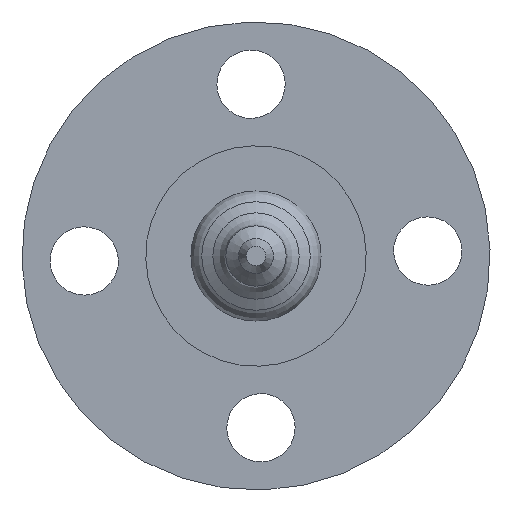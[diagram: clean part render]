
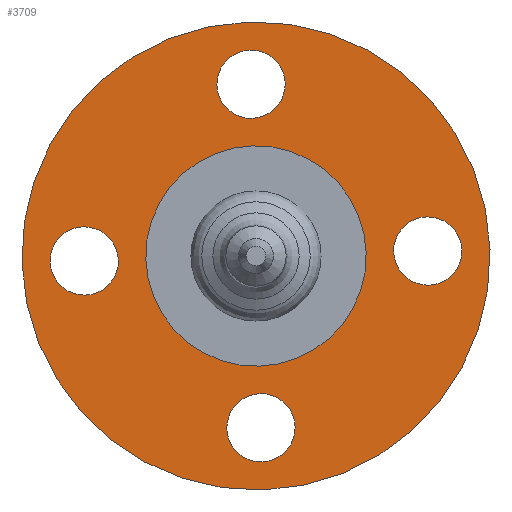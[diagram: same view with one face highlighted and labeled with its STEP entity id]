
A CAD part, left-side view. The second image highlights one B-rep face of the part: STEP entity #3709.
In plain terms, the highlighted planar face has unit normal (-1, 0, 0).
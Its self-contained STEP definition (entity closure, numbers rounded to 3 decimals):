
#595=ORIENTED_EDGE('',*,*,#1331,.F.);
#596=ORIENTED_EDGE('',*,*,#1330,.F.);
#597=ORIENTED_EDGE('',*,*,#1329,.F.);
#598=ORIENTED_EDGE('',*,*,#1332,.F.);
#599=ORIENTED_EDGE('',*,*,#1333,.F.);
#600=ORIENTED_EDGE('',*,*,#1334,.T.);
#1329=EDGE_CURVE('',#1699,#1699,#1962,.T.);
#1330=EDGE_CURVE('',#1700,#1700,#1963,.T.);
#1331=EDGE_CURVE('',#1701,#1701,#1964,.T.);
#1332=EDGE_CURVE('',#1702,#1702,#1965,.T.);
#1333=EDGE_CURVE('',#1703,#1703,#1966,.T.);
#1334=EDGE_CURVE('',#1704,#1704,#1967,.T.);
#1699=VERTEX_POINT('',#4532);
#1700=VERTEX_POINT('',#4535);
#1701=VERTEX_POINT('',#4538);
#1702=VERTEX_POINT('',#4541);
#1703=VERTEX_POINT('',#4543);
#1704=VERTEX_POINT('',#4545);
#1962=CIRCLE('',#3886,7.874);
#1963=CIRCLE('',#3888,7.874);
#1964=CIRCLE('',#3890,7.874);
#1965=CIRCLE('',#3892,25.4);
#1966=CIRCLE('',#3893,7.874);
#1967=CIRCLE('',#3894,53.975);
#2035=EDGE_LOOP('',(#595));
#2036=EDGE_LOOP('',(#596));
#2037=EDGE_LOOP('',(#597));
#2038=EDGE_LOOP('',(#598));
#2039=EDGE_LOOP('',(#599));
#2040=EDGE_LOOP('',(#600));
#2270=FACE_BOUND('',#2035,.T.);
#2271=FACE_BOUND('',#2036,.T.);
#2272=FACE_BOUND('',#2037,.T.);
#2273=FACE_BOUND('',#2038,.T.);
#2274=FACE_BOUND('',#2039,.T.);
#2275=FACE_BOUND('',#2040,.T.);
#2494=PLANE('',#3891);
#3709=ADVANCED_FACE('',(#2270,#2271,#2272,#2273,#2274,#2275),#2494,.T.);
#3886=AXIS2_PLACEMENT_3D('',#4531,#4066,#4067);
#3888=AXIS2_PLACEMENT_3D('',#4534,#4070,#4071);
#3890=AXIS2_PLACEMENT_3D('',#4537,#4074,#4075);
#3891=AXIS2_PLACEMENT_3D('',#4539,#4076,#4077);
#3892=AXIS2_PLACEMENT_3D('',#4540,#4078,#4079);
#3893=AXIS2_PLACEMENT_3D('',#4542,#4080,#4081);
#3894=AXIS2_PLACEMENT_3D('',#4544,#4082,#4083);
#4066=DIRECTION('',(-1.,0.,0.));
#4067=DIRECTION('',(0.,-0.029,-1.));
#4070=DIRECTION('',(-1.,0.,0.));
#4071=DIRECTION('',(0.,-0.029,-1.));
#4074=DIRECTION('',(-1.,0.,0.));
#4075=DIRECTION('',(0.,-0.029,-1.));
#4076=DIRECTION('',(-1.,0.,0.));
#4077=DIRECTION('',(0.,0.029,1.));
#4078=DIRECTION('',(-1.,0.,0.));
#4079=DIRECTION('',(0.,-0.029,-1.));
#4080=DIRECTION('',(-1.,0.,0.));
#4081=DIRECTION('',(0.,-0.029,-1.));
#4082=DIRECTION('',(-1.,0.,0.));
#4083=DIRECTION('',(0.,-0.029,-1.));
#4531=CARTESIAN_POINT('',(131.588,39.607,-1.151));
#4532=CARTESIAN_POINT('',(131.588,39.379,-9.022));
#4534=CARTESIAN_POINT('',(131.588,-1.151,-39.607));
#4535=CARTESIAN_POINT('',(131.588,-1.38,-47.478));
#4537=CARTESIAN_POINT('',(131.588,-39.607,1.151));
#4538=CARTESIAN_POINT('',(131.588,-39.836,-6.719));
#4539=CARTESIAN_POINT('',(131.588,-25.389,0.738));
#4540=CARTESIAN_POINT('',(131.588,0.,0.));
#4541=CARTESIAN_POINT('',(131.588,-0.738,-25.389));
#4542=CARTESIAN_POINT('',(131.588,1.151,39.607));
#4543=CARTESIAN_POINT('',(131.588,0.922,31.737));
#4544=CARTESIAN_POINT('',(131.588,0.,0.));
#4545=CARTESIAN_POINT('',(131.588,-1.568,-53.952));
